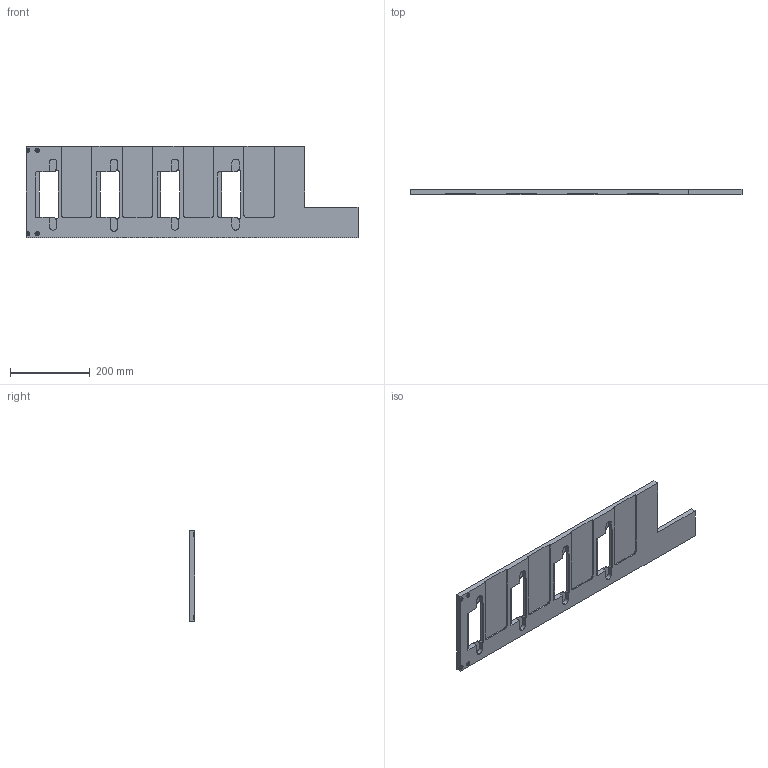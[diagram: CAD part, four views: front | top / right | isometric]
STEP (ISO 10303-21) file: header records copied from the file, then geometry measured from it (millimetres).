
FILE_DESCRIPTION (( 'STEP AP203' ), '1' );
FILE_NAME ('269-18-320.STEP', '2020-03-02T22:44:23', ( '' ), ( '' ), 'SwSTEP 2.0', 'SolidWorks 2017', '' );
FILE_SCHEMA (( 'CONFIG_CONTROL_DESIGN' ));
Length unit declared in the file: inch
Products named in the file (1): 269-18-320
Bounding box: 831.85 x 12.7 x 228.6 mm (x, y, z)
Volume: 1634184.6 mm3; surface area: 348120.3 mm2
Topology: 1 solids, 1 shells, 160 faces, 452 edges, 296 vertices
Faces by surface type: plane 80, cylinder 58, cone 22
Entity records: 5333 total; most frequent: CARTESIAN_POINT 957, DIRECTION 912, ORIENTED_EDGE 904, EDGE_CURVE 452, AXIS2_PLACEMENT_3D 311, VERTEX_POINT 296, VECTOR 290, LINE 290
